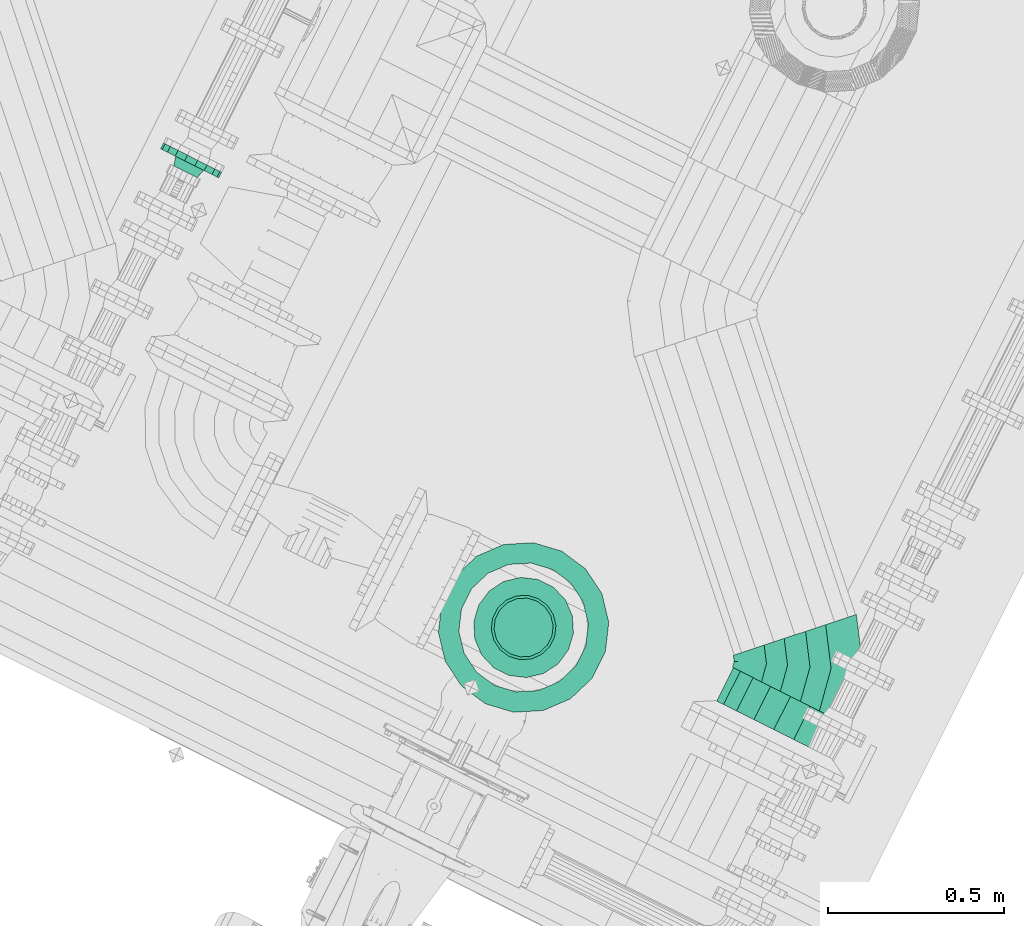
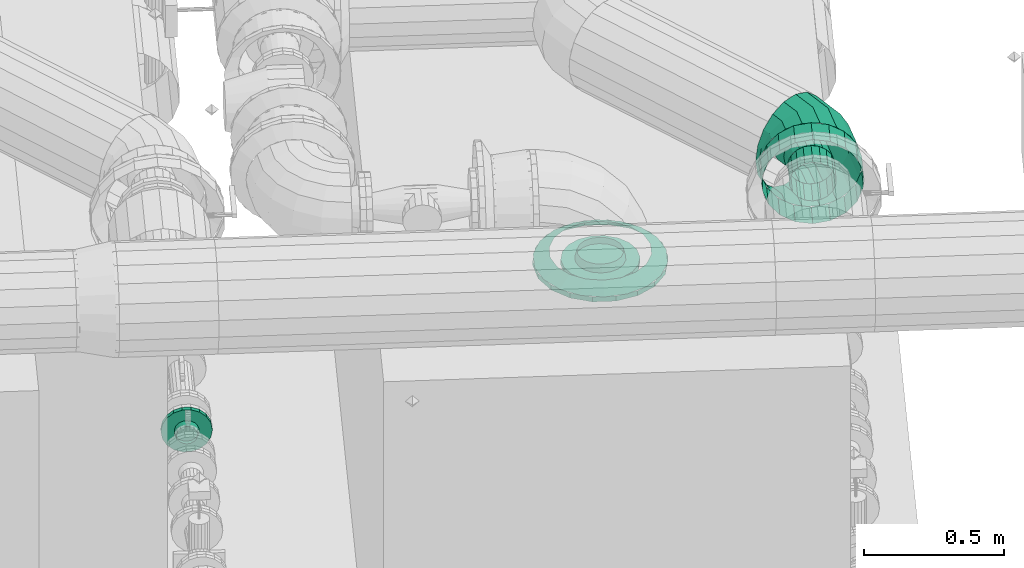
# One storey, part 76 of 206: 2 flow fittings, 2 flow segments.
"""IFC2X3 building model written with IfcOpenShell, lengths in metres."""

from ifc_helpers import new_model, si_unit, derived_unit, direction, frame, origin, place, context, subcontext, project, spatial, face_set, surface_model, source, transform, mapped, material, type_object, type_shapes, element, save


model = new_model("IFC2X3")

# Units and contexts
model_context = context("Model", 3, precision=5.2338327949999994e-05, world=origin(), true_north=direction((0.0, 1.0)))
body_context = subcontext(model_context, "Body", "Model", "MODEL_VIEW")
ifc_project = project(units=[si_unit("LENGTHUNIT", "METRE"), si_unit("AREAUNIT", "SQUARE_METRE"), si_unit("VOLUMEUNIT", "CUBIC_METRE"), si_unit("MASSUNIT", "GRAM", prefix="KILO"), si_unit("PLANEANGLEUNIT", "RADIAN"), derived_unit("THERMALTRANSMITTANCEUNIT", [(si_unit("MASSUNIT", "GRAM", prefix="KILO"), 1), (si_unit("THERMODYNAMICTEMPERATUREUNIT", "KELVIN"), -1), (si_unit("TIMEUNIT", "SECOND"), -3)])], contexts=[model_context])

# Site, building, storey
site_placement = place(None, frame((0.0, 0.0, 0.0), z_axis=(0.0, 0.0, 1.0), x_axis=(0.8939966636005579, -0.4480736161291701, 0.0)))
site = spatial("IfcSite", under=ifc_project, at=site_placement, Name="Default", CompositionType="ELEMENT")
building_placement = place(site_placement, origin())
building = spatial("IfcBuilding", under=site, at=building_placement, CompositionType="ELEMENT")
storey_placement = place(building_placement, origin())
storey = spatial("IfcBuildingStorey", under=building, at=storey_placement, Name="Erdgeschoss", CompositionType="ELEMENT", Elevation=0.0)

# Flow fitting
ifc_material_1 = material(Name="IfcSurfaceStyle #1741")
distribution_element_type_1 = type_object("IfcDistributionElementType", Name="Flansch 340673:Flansch 340673", material=ifc_material_1)
shared_shape_1 = source(origin(), body_context, "Body", "SurfaceModel", [
    surface_model("IfcFaceBasedSurfaceModel", [(26.38732323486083, 5.395961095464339, 2.07), (26.39591703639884, 5.347223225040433, 2.07), (26.39591703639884, 5.347223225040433, 2.0919999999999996), (26.38732323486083, 5.395961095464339, 2.0919999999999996), (26.42066190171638, 5.304363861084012, 2.07), (26.42066190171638, 5.304363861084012, 2.0919999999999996), (26.45857323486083, 5.2725524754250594, 2.07), (26.45857323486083, 5.2725524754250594, 2.0919999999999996), (26.505078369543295, 5.255625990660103, 2.07), (26.505078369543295, 5.255625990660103, 2.0919999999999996), (26.55456810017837, 5.255625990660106, 2.07), (26.55456810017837, 5.255625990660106, 2.0919999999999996), (26.60107323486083, 5.272552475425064, 2.07), (26.60107323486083, 5.272552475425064, 2.0919999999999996), (26.63898456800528, 5.304363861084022, 2.07), (26.63898456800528, 5.304363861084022, 2.0919999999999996), (26.663729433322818, 5.347223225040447, 2.07), (26.663729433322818, 5.347223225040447, 2.0919999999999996), (26.672323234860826, 5.395961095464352, 2.07), (26.672323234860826, 5.395961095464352, 2.0919999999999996), (26.663729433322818, 5.444698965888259, 2.07), (26.663729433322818, 5.444698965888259, 2.0919999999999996), (26.63898456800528, 5.487558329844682, 2.07), (26.63898456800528, 5.487558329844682, 2.0919999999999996), (26.60107323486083, 5.519369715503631, 2.07), (26.60107323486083, 5.519369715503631, 2.0919999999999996), (26.55456810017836, 5.536296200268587, 2.07), (26.55456810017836, 5.536296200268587, 2.0919999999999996), (26.505078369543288, 5.536296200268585, 2.07), (26.505078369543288, 5.536296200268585, 2.0919999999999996), (26.45857323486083, 5.519369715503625, 2.07), (26.45857323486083, 5.519369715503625, 2.0919999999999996), (26.42066190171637, 5.487558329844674, 2.07), (26.42066190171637, 5.487558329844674, 2.0919999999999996), (26.395917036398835, 5.444698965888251, 2.07), (26.395917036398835, 5.444698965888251, 2.0919999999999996), (26.529823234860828, 5.3959610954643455, 2.091999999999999), (26.529823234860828, 5.303961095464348, 2.091999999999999), (26.56128908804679, 5.309509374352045, 2.091999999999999), (26.558604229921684, 5.316885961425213, 2.1249999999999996), (26.529823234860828, 5.311811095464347, 2.125), (26.58895969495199, 5.325485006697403, 2.091999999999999), (26.58391381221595, 5.331498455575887, 2.1249999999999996), (26.609497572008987, 5.349961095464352, 2.091999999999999), (26.602699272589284, 5.353886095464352, 2.1249999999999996), (26.620425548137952, 5.37998546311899, 2.0919999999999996), (26.612694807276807, 5.381348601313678, 2.125), (26.620425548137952, 5.411936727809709, 2.0919999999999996), (26.612694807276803, 5.410573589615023, 2.125), (26.60949757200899, 5.44196109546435, 2.091999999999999), (26.602699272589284, 5.438036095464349, 2.1249999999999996), (26.588959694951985, 5.466437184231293, 2.0919999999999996), (26.58391381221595, 5.460423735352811, 2.125), (26.56128908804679, 5.4824128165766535, 2.0919999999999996), (26.558604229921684, 5.475036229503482, 2.125), (26.529823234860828, 5.487961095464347, 2.0919999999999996), (26.529823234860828, 5.480111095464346, 2.125), (26.498357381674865, 5.482412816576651, 2.0919999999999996), (26.50104223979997, 5.475036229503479, 2.125), (26.470686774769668, 5.466437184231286, 2.091999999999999), (26.47573265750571, 5.460423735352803, 2.1249999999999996), (26.450148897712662, 5.44196109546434, 2.091999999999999), (26.45694719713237, 5.438036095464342, 2.1249999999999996), (26.439220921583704, 5.4119367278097, 2.0919999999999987), (26.446951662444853, 5.410573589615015, 2.124999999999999), (26.439220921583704, 5.379985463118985, 2.091999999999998), (26.44695166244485, 5.38134860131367, 2.1249999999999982), (26.450148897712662, 5.349961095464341, 2.0919999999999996), (26.45694719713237, 5.353886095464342, 2.125), (26.470686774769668, 5.325485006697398, 2.0919999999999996), (26.47573265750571, 5.331498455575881, 2.125), (26.498357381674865, 5.309509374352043, 2.091999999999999), (26.501042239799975, 5.31688596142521, 2.1249999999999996), (26.287323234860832, 5.395961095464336, 2.07), (26.301947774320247, 5.313021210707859, 2.07), (26.301947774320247, 5.313021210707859, 2.0919999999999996), (26.287323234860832, 5.395961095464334, 2.0919999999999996), (26.34405745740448, 5.24008510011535, 2.07), (26.34405745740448, 5.24008510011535, 2.0919999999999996), (26.408573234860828, 5.185949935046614, 2.07), (26.408573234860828, 5.185949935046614, 2.0919999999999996), (26.487713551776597, 5.157145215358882, 2.07), (26.487713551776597, 5.157145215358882, 2.0919999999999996), (26.571932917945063, 5.157145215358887, 2.07), (26.571932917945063, 5.157145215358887, 2.0919999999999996), (26.651073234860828, 5.185949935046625, 2.07), (26.651073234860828, 5.185949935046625, 2.0919999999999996), (26.715589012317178, 5.240085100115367, 2.07), (26.715589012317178, 5.240085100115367, 2.0919999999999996), (26.75769869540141, 5.313021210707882, 2.07), (26.75769869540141, 5.313021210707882, 2.0919999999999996), (26.772323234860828, 5.395961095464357, 2.07), (26.772323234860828, 5.395961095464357, 2.0919999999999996), (26.75769869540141, 5.478900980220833, 2.07), (26.75769869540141, 5.478900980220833, 2.0919999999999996), (26.715589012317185, 5.551837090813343, 2.07), (26.715589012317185, 5.551837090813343, 2.0919999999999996), (26.651073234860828, 5.605972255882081, 2.07), (26.651073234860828, 5.605972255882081, 2.0919999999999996), (26.57193291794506, 5.63477697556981, 2.07), (26.57193291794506, 5.63477697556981, 2.0919999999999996), (26.487713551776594, 5.634776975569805, 2.07), (26.487713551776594, 5.634776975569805, 2.0919999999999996), (26.408573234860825, 5.605972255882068, 2.07), (26.408573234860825, 5.605972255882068, 2.0919999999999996), (26.344057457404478, 5.551837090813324, 2.07), (26.344057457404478, 5.551837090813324, 2.0919999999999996), (26.301947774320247, 5.47890098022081, 2.07), (26.301947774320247, 5.47890098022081, 2.0919999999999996), (26.529823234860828, 5.153461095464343, 2.092), (26.612763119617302, 5.168085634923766, 2.092), (26.592806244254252, 5.222916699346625, 2.1250000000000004), (26.529823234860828, 5.211811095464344, 2.1249999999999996), (26.68569923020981, 5.210195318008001, 2.0919999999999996), (26.648192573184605, 5.254894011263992, 2.125), (26.73983439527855, 5.274711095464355, 2.091999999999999), (26.68930181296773, 5.303886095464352, 2.1249999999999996), (26.768639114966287, 5.353851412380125, 2.091999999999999), (26.711175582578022, 5.363983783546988, 2.1249999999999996), (26.768639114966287, 5.438070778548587, 2.092000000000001), (26.711175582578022, 5.4279384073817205, 2.1250000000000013), (26.73983439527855, 5.517211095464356, 2.091999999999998), (26.68930181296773, 5.488036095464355, 2.1249999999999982), (26.68569923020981, 5.581726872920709, 2.092), (26.6481925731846, 5.537028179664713, 2.1250000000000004), (26.612763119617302, 5.6238365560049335, 2.0919999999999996), (26.592806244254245, 5.5690054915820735, 2.125), (26.529823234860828, 5.638461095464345, 2.0919999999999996), (26.529823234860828, 5.580111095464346, 2.125), (26.446883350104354, 5.623836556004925, 2.0919999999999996), (26.466840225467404, 5.569005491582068, 2.125), (26.373947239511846, 5.581726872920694, 2.0919999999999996), (26.411453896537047, 5.537028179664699, 2.125), (26.319812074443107, 5.517211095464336, 2.092), (26.37034465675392, 5.48803609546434, 2.1250000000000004), (26.29100735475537, 5.438070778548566, 2.0920000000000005), (26.34847088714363, 5.427938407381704, 2.125000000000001), (26.29100735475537, 5.353851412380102, 2.0919999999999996), (26.34847088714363, 5.36398378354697, 2.125), (26.319812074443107, 5.274711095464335, 2.091999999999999), (26.37034465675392, 5.303886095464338, 2.1249999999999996), (26.373947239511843, 5.210195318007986, 2.0920000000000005), (26.41145389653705, 5.254894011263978, 2.125000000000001), (26.446883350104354, 5.168085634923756, 2.092000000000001), (26.46684022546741, 5.222916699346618, 2.1250000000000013)], [face_set([[[0, 1, 2, 3]], [[1, 4, 5, 2]], [[4, 6, 7, 5]], [[6, 8, 9, 7]], [[8, 10, 11, 9]], [[10, 12, 13, 11]], [[12, 14, 15, 13]], [[14, 16, 17, 15]], [[16, 18, 19, 17]], [[18, 20, 21, 19]], [[20, 22, 23, 21]], [[22, 24, 25, 23]], [[24, 26, 27, 25]], [[26, 28, 29, 27]], [[28, 30, 31, 29]], [[30, 32, 33, 31]], [[32, 34, 35, 33]], [[34, 0, 3, 35]], [[36, 35, 3]], [[36, 33, 35]], [[36, 31, 33]], [[36, 29, 31]], [[36, 27, 29]], [[36, 25, 27]], [[36, 23, 25]], [[36, 21, 23]], [[36, 19, 21]], [[36, 17, 19]], [[36, 15, 17]], [[36, 13, 15]], [[36, 11, 13]], [[36, 9, 11]], [[36, 7, 9]], [[36, 5, 7]], [[36, 2, 5]], [[36, 3, 2]], [[37, 38, 39, 40]], [[38, 41, 42, 39]], [[41, 43, 44, 42]], [[43, 45, 46, 44]], [[45, 47, 48, 46]], [[47, 49, 50, 48]], [[49, 51, 52, 50]], [[51, 53, 54, 52]], [[53, 55, 56, 54]], [[55, 57, 58, 56]], [[57, 59, 60, 58]], [[59, 61, 62, 60]], [[61, 63, 64, 62]], [[63, 65, 66, 64]], [[65, 67, 68, 66]], [[67, 69, 70, 68]], [[69, 71, 72, 70]], [[71, 37, 40, 72]], [[73, 74, 75, 76]], [[74, 77, 78, 75]], [[77, 79, 80, 78]], [[79, 81, 82, 80]], [[81, 83, 84, 82]], [[83, 85, 86, 84]], [[85, 87, 88, 86]], [[87, 89, 90, 88]], [[89, 91, 92, 90]], [[91, 93, 94, 92]], [[93, 95, 96, 94]], [[95, 97, 98, 96]], [[97, 99, 100, 98]], [[99, 101, 102, 100]], [[101, 103, 104, 102]], [[103, 105, 106, 104]], [[105, 107, 108, 106]], [[107, 73, 76, 108]], [[109, 110, 111, 112]], [[110, 113, 114, 111]], [[113, 115, 116, 114]], [[115, 117, 118, 116]], [[117, 119, 120, 118]], [[119, 121, 122, 120]], [[121, 123, 124, 122]], [[123, 125, 126, 124]], [[125, 127, 128, 126]], [[127, 129, 130, 128]], [[129, 131, 132, 130]], [[131, 133, 134, 132]], [[133, 135, 136, 134]], [[135, 137, 138, 136]], [[137, 139, 140, 138]], [[139, 141, 142, 140]], [[141, 143, 144, 142]], [[143, 109, 112, 144]]])]),
])
type_shapes(distribution_element_type_1, [shared_shape_1])
flow_fitting_1_placement = place(storey_placement, origin())
element("IfcFlowFitting", 1, at=flow_fitting_1_placement, inside=storey, type_object=distribution_element_type_1, material=ifc_material_1, Name="Flansch", ObjectType="Flansch", context=body_context, shape_type="MappedRepresentation", body=[
    mapped(shared_shape_1, transform((0.0, 0.0, 0.0), scale=1.0)),
])

# Flow segments
ifc_material_2 = material(Name="IfcSurfaceStyle #9317")
distribution_element_type_2 = type_object("IfcDistributionElementType", Name="Rohrbogen 342231:Rohrbogen 342231", material=ifc_material_2)
shared_shape_2 = source(origin(), body_context, "Body", "SurfaceModel", [
    surface_model("IfcFaceBasedSurfaceModel", [(27.379550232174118, 5.5606742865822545, 2.353999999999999), (27.37447536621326, 5.560674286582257, 2.3252190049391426), (27.351024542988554, 5.678569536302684, 2.325219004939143), (27.355713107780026, 5.680511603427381, 2.354000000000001), (27.284242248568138, 5.778516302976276, 2.3252190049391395), (27.287830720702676, 5.782104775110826, 2.3539999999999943), (27.359862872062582, 5.560674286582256, 2.299909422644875), (27.337524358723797, 5.67297757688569, 2.299909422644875), (27.273909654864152, 5.768183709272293, 2.2999094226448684), (27.33747523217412, 5.5606742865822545, 2.281123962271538), (27.31684087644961, 5.6644101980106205, 2.281123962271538), (27.25807920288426, 5.752353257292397, 2.28112396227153), (27.3100127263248, 5.560674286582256, 2.271128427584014), (27.291468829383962, 5.653900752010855, 2.271128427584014), (27.23866027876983, 5.732934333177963, 2.271128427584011), (27.280787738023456, 5.560674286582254, 2.2711284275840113), (27.264468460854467, 5.642716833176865, 2.2711284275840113), (27.21799509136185, 5.7122691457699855, 2.271128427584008), (27.25332523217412, 5.560674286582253, 2.2811239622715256), (27.239096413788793, 5.632207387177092, 2.281123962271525), (27.198576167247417, 5.692850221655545, 2.281123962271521), (27.23093759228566, 5.560674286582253, 2.2999094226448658), (27.21841293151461, 5.623640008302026, 2.299909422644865), (27.18274571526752, 5.6770197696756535, 2.2999094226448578), (27.216325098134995, 5.560674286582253, 2.3252190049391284), (27.204912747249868, 5.61804804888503, 2.325219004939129), (27.172413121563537, 5.666687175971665, 2.3252190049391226), (27.211250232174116, 5.560674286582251, 2.3539999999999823), (27.200224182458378, 5.616105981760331, 2.3539999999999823), (27.168824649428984, 5.663098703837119, 2.3539999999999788), (27.21632509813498, 5.560674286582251, 2.3827809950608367), (27.204912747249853, 5.618048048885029, 2.3827809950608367), (27.17241312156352, 5.666687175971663, 2.3827809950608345), (27.230937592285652, 5.560674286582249, 2.408090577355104), (27.218412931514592, 5.623640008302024, 2.408090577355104), (27.182745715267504, 5.677019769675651, 2.408090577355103), (27.253325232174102, 5.560674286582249, 2.426876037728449), (27.239096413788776, 5.632207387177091, 2.426876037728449), (27.19857616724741, 5.692850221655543, 2.4268760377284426), (27.280787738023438, 5.560674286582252, 2.436871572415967), (27.26446846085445, 5.642716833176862, 2.436871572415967), (27.217995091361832, 5.712269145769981, 2.436871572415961), (27.31001272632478, 5.560674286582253, 2.4368715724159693), (27.291468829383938, 5.653900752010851, 2.4368715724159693), (27.238660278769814, 5.73293433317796, 2.4368715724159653), (27.33747523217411, 5.560674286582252, 2.4268760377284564), (27.316840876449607, 5.664410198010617, 2.426876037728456), (27.258079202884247, 5.752353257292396, 2.426876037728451), (27.359862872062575, 5.560674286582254, 2.408090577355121), (27.33752435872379, 5.672977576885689, 2.4080905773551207), (27.27390965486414, 5.768183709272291, 2.4080905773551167), (27.374475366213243, 5.560674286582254, 2.3827809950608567), (27.351024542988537, 5.678569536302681, 2.3827809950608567), (27.28424224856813, 5.778516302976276, 2.382780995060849), (27.479550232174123, 5.560674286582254, 2.3540000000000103), (27.46844462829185, 5.560674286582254, 2.2910169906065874), (27.43784082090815, 5.7145300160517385, 2.2910169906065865), (27.448101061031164, 5.718779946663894, 2.3540000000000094), (27.350688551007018, 5.844962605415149, 2.2910169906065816), (27.358541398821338, 5.852815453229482, 2.3540000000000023), (27.436467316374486, 5.5606742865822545, 2.235630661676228), (27.408297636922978, 5.702292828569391, 2.2356306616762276), (27.328077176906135, 5.8223512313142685, 2.235630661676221), (27.387475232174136, 5.560674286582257, 2.1945214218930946), (27.363034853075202, 5.683544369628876, 2.194521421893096), (27.293434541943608, 5.787708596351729, 2.1945214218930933), (27.327377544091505, 5.560674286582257, 2.1726476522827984), (27.307511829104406, 5.66054598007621, 2.1726476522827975), (27.25093905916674, 5.745213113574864, 2.1726476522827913), (27.26342292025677, 5.560674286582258, 2.17264765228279), (27.24842546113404, 5.636071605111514, 2.1726476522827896), (27.205716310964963, 5.699990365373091, 2.172647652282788), (27.203325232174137, 5.560674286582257, 2.1945214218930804), (27.19290243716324, 5.613073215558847, 2.1945214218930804), (27.1632208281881, 5.657494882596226, 2.1945214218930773), (27.15433314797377, 5.560674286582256, 2.2356306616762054), (27.147639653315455, 5.594324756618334, 2.235630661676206), (27.128578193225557, 5.622852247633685, 2.2356306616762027), (27.122355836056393, 5.560674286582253, 2.291016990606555), (27.11809646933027, 5.582087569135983, 2.291016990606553), (27.105966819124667, 5.600240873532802, 2.2910169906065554), (27.11125023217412, 5.560674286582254, 2.3539999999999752), (27.10783622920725, 5.577837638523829, 2.353999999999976), (27.09811397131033, 5.59238802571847, 2.3539999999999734), (27.122355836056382, 5.560674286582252, 2.416983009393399), (27.118096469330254, 5.582087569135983, 2.416983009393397), (27.105966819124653, 5.6002408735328, 2.4169830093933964), (27.154333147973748, 5.560674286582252, 2.4723693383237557), (27.14763965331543, 5.594324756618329, 2.472369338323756), (27.128578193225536, 5.6228522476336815, 2.472369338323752), (27.2033252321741, 5.560674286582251, 2.5134785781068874), (27.19290243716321, 5.613073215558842, 2.513478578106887), (27.16322082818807, 5.65749488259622, 2.5134785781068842), (27.263422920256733, 5.560674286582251, 2.5353523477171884), (27.248425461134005, 5.636071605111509, 2.5353523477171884), (27.20571631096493, 5.699990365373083, 2.5353523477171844), (27.327377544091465, 5.560674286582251, 2.5353523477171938), (27.307511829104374, 5.660545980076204, 2.535352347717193), (27.250939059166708, 5.745213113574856, 2.5353523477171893), (27.387475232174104, 5.560674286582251, 2.5134785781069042), (27.363034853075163, 5.683544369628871, 2.5134785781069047), (27.293434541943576, 5.787708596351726, 2.513478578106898), (27.436467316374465, 5.560674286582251, 2.47236933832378), (27.408297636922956, 5.702292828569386, 2.47236933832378), (27.328077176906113, 5.822351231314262, 2.4723693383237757), (27.468444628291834, 5.560674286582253, 2.4169830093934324), (27.437840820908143, 5.714530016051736, 2.416983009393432), (27.350688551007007, 5.844962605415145, 2.4169830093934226)], [face_set([[[0, 1, 2, 3]], [[3, 2, 4, 5]], [[1, 6, 7, 2]], [[2, 7, 8, 4]], [[6, 9, 10, 7]], [[7, 10, 11, 8]], [[9, 12, 13, 10]], [[10, 13, 14, 11]], [[12, 15, 16, 13]], [[13, 16, 17, 14]], [[15, 18, 19, 16]], [[16, 19, 20, 17]], [[18, 21, 22, 19]], [[19, 22, 23, 20]], [[21, 24, 25, 22]], [[22, 25, 26, 23]], [[24, 27, 28, 25]], [[25, 28, 29, 26]], [[27, 30, 31, 28]], [[28, 31, 32, 29]], [[30, 33, 34, 31]], [[31, 34, 35, 32]], [[33, 36, 37, 34]], [[34, 37, 38, 35]], [[36, 39, 40, 37]], [[37, 40, 41, 38]], [[39, 42, 43, 40]], [[40, 43, 44, 41]], [[42, 45, 46, 43]], [[43, 46, 47, 44]], [[45, 48, 49, 46]], [[46, 49, 50, 47]], [[48, 51, 52, 49]], [[49, 52, 53, 50]], [[51, 0, 3, 52]], [[52, 3, 5, 53]], [[54, 55, 56, 57]], [[57, 56, 58, 59]], [[55, 60, 61, 56]], [[56, 61, 62, 58]], [[60, 63, 64, 61]], [[61, 64, 65, 62]], [[63, 66, 67, 64]], [[64, 67, 68, 65]], [[66, 69, 70, 67]], [[67, 70, 71, 68]], [[69, 72, 73, 70]], [[70, 73, 74, 71]], [[72, 75, 76, 73]], [[73, 76, 77, 74]], [[75, 78, 79, 76]], [[76, 79, 80, 77]], [[78, 81, 82, 79]], [[79, 82, 83, 80]], [[81, 84, 85, 82]], [[82, 85, 86, 83]], [[84, 87, 88, 85]], [[85, 88, 89, 86]], [[87, 90, 91, 88]], [[88, 91, 92, 89]], [[90, 93, 94, 91]], [[91, 94, 95, 92]], [[93, 96, 97, 94]], [[94, 97, 98, 95]], [[96, 99, 100, 97]], [[97, 100, 101, 98]], [[99, 102, 103, 100]], [[100, 103, 104, 101]], [[102, 105, 106, 103]], [[103, 106, 107, 104]], [[105, 54, 57, 106]], [[106, 57, 59, 107]]])]),
])
type_shapes(distribution_element_type_2, [shared_shape_2])
flow_segment_1_placement = place(storey_placement, origin())
element("IfcFlowSegment", 2, at=flow_segment_1_placement, inside=storey, type_object=distribution_element_type_2, material=ifc_material_2, Name="Rohrbogen", ObjectType="Rohrbogen", context=body_context, shape_type="MappedRepresentation", body=[
    mapped(shared_shape_2, transform((0.0, 0.0, 0.0), scale=1.0)),
])
distribution_element_type_3 = type_object("IfcDistributionElementType", Name="Stahlrohr nach DIN 2448 343408:Stahlrohr nach DIN 2448 343408", material=ifc_material_2)
shared_shape_3 = source(origin(), body_context, "Body", "SurfaceModel", [
    surface_model("IfcFaceBasedSurfaceModel", [(27.29540023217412, 5.560674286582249, 2.4381499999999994), (27.266619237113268, 5.560674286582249, 2.433075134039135), (27.266619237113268, 5.4549121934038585, 2.433075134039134), (27.295400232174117, 5.4549121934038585, 2.438149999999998), (27.241309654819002, 5.560674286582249, 2.4184626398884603), (27.24130965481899, 5.4549121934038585, 2.41846263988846), (27.222524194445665, 5.560674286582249, 2.396074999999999), (27.22252419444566, 5.4549121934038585, 2.3960749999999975), (27.212528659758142, 5.560674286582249, 2.3686124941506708), (27.212528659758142, 5.4549121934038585, 2.368612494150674), (27.212528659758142, 5.560674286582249, 2.3393875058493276), (27.212528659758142, 5.4549121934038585, 2.3393875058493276), (27.22252419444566, 5.560674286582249, 2.3119250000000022), (27.22252419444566, 5.4549121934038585, 2.3119250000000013), (27.241309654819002, 5.560674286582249, 2.289537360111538), (27.24130965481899, 5.4549121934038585, 2.289537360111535), (27.266619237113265, 5.560674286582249, 2.2749248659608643), (27.266619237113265, 5.4549121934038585, 2.274924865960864), (27.29540023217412, 5.560674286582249, 2.2698500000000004), (27.295400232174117, 5.454912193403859, 2.2698500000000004), (27.32418122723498, 5.560674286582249, 2.274924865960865), (27.324181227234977, 5.454912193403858, 2.2749248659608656), (27.349490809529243, 5.560674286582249, 2.28953736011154), (27.34949080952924, 5.4549121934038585, 2.289537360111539), (27.368276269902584, 5.560674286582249, 2.3119250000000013), (27.368276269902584, 5.4549121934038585, 2.3119250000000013), (27.378271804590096, 5.560674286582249, 2.3393875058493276), (27.378271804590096, 5.4549121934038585, 2.339387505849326), (27.378271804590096, 5.560674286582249, 2.3686124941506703), (27.378271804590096, 5.4549121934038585, 2.368612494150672), (27.368276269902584, 5.560674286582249, 2.396075), (27.36827626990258, 5.4549121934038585, 2.3960749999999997), (27.349490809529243, 5.560674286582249, 2.418462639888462), (27.349490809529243, 5.4549121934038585, 2.4184626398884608), (27.324181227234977, 5.560674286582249, 2.4330751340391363), (27.32418122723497, 5.4549121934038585, 2.433075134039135), (27.29540023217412, 5.560674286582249, 2.5381499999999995), (27.232417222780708, 5.560674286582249, 2.5270443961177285), (27.232417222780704, 5.4549121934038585, 2.527044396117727), (27.295400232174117, 5.4549121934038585, 2.538149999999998), (27.17703089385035, 5.560674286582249, 2.4950670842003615), (27.17703089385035, 5.4549121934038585, 2.495067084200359), (27.135921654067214, 5.560674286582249, 2.446074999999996), (27.13592165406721, 5.4549121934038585, 2.446074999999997), (27.114047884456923, 5.560674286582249, 2.385977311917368), (27.114047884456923, 5.4549121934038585, 2.3859773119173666), (27.114047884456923, 5.560674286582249, 2.3220226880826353), (27.114047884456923, 5.4549121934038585, 2.3220226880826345), (27.135921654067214, 5.560674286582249, 2.261924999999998), (27.13592165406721, 5.4549121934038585, 2.261924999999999), (27.177030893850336, 5.560674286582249, 2.2129329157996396), (27.177030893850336, 5.4549121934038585, 2.2129329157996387), (27.2324172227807, 5.560674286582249, 2.1809556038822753), (27.2324172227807, 5.4549121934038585, 2.1809556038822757), (27.295400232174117, 5.560674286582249, 2.1698499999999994), (27.295400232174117, 5.4549121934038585, 2.1698499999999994), (27.35838324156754, 5.560674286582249, 2.1809556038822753), (27.35838324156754, 5.4549121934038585, 2.180955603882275), (27.413769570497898, 5.560674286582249, 2.2129329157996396), (27.413769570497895, 5.4549121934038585, 2.2129329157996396), (27.45487881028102, 5.560674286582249, 2.2619249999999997), (27.45487881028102, 5.4549121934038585, 2.2619250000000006), (27.47675257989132, 5.560674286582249, 2.322022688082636), (27.47675257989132, 5.4549121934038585, 2.3220226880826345), (27.476752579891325, 5.560674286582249, 2.3859773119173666), (27.47675257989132, 5.4549121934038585, 2.3859773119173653), (27.454878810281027, 5.560674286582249, 2.446074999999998), (27.454878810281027, 5.4549121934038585, 2.4460749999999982), (27.413769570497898, 5.560674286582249, 2.4950670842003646), (27.413769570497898, 5.4549121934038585, 2.4950670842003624), (27.358383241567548, 5.560674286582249, 2.5270443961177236), (27.358383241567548, 5.4549121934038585, 2.5270443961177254)], [face_set([[[0, 1, 2, 3]], [[1, 4, 5, 2]], [[4, 6, 7, 5]], [[6, 8, 9, 7]], [[8, 10, 11, 9]], [[10, 12, 13, 11]], [[12, 14, 15, 13]], [[14, 16, 17, 15]], [[16, 18, 19, 17]], [[18, 20, 21, 19]], [[20, 22, 23, 21]], [[22, 24, 25, 23]], [[24, 26, 27, 25]], [[26, 28, 29, 27]], [[28, 30, 31, 29]], [[30, 32, 33, 31]], [[32, 34, 35, 33]], [[34, 0, 3, 35]], [[36, 37, 38, 39]], [[37, 40, 41, 38]], [[40, 42, 43, 41]], [[42, 44, 45, 43]], [[44, 46, 47, 45]], [[46, 48, 49, 47]], [[48, 50, 51, 49]], [[50, 52, 53, 51]], [[52, 54, 55, 53]], [[54, 56, 57, 55]], [[56, 58, 59, 57]], [[58, 60, 61, 59]], [[60, 62, 63, 61]], [[62, 64, 65, 63]], [[64, 66, 67, 65]], [[66, 68, 69, 67]], [[68, 70, 71, 69]], [[70, 36, 39, 71]]])]),
])
type_shapes(distribution_element_type_3, [shared_shape_3])
flow_segment_2_placement = place(storey_placement, origin())
element("IfcFlowSegment", 3, at=flow_segment_2_placement, inside=storey, type_object=distribution_element_type_3, material=ifc_material_2, Name="Stahlrohr nach DIN 2448", ObjectType="Stahlrohr nach DIN 2448", context=body_context, shape_type="MappedRepresentation", body=[
    mapped(shared_shape_3, transform((0.0, 0.0, 0.0), scale=1.0)),
])

# Flow fitting
ifc_material_3 = material(Name="IfcSurfaceStyle #352577")
distribution_element_type_4 = type_object("IfcDistributionElementType", Name="Flansch 604180:Flansch 604180", material=ifc_material_3)
shared_shape_4 = source(origin(), body_context, "Body", "SurfaceModel", [
    surface_model("IfcFaceBasedSurfaceModel", [(24.998140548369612, 6.167958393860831, 0.8699999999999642), (25.00371898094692, 6.167958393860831, 0.8383631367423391), (25.00371898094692, 6.14995839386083, 0.8383631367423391), (24.998140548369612, 6.14995839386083, 0.8699999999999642), (25.01978143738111, 6.167958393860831, 0.810542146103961), (25.01978143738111, 6.14995839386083, 0.810542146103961), (25.044390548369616, 6.167958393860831, 0.7898926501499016), (25.044390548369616, 6.14995839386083, 0.7898926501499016), (25.07457809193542, 6.167958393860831, 0.7789052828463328), (25.07457809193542, 6.14995839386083, 0.7789052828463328), (25.10670300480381, 6.167958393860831, 0.7789052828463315), (25.10670300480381, 6.14995839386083, 0.7789052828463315), (25.136890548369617, 6.167958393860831, 0.7898926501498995), (25.136890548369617, 6.14995839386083, 0.7898926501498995), (25.161499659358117, 6.167958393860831, 0.8105421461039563), (25.161499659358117, 6.14995839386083, 0.8105421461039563), (25.17756211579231, 6.167958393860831, 0.8383631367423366), (25.17756211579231, 6.14995839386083, 0.8383631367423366), (25.183140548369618, 6.167958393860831, 0.8699999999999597), (25.183140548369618, 6.14995839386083, 0.8699999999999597), (25.17756211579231, 6.167958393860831, 0.9016368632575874), (25.17756211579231, 6.14995839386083, 0.9016368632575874), (25.161499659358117, 6.167958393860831, 0.9294578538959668), (25.161499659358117, 6.14995839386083, 0.9294578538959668), (25.13689054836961, 6.167958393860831, 0.9501073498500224), (25.13689054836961, 6.14995839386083, 0.9501073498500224), (25.10670300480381, 6.167958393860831, 0.9610947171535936), (25.10670300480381, 6.14995839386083, 0.9610947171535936), (25.07457809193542, 6.167958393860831, 0.9610947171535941), (25.07457809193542, 6.14995839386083, 0.9610947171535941), (25.044390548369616, 6.167958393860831, 0.9501073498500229), (25.044390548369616, 6.14995839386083, 0.9501073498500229), (25.01978143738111, 6.167958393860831, 0.9294578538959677), (25.01978143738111, 6.14995839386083, 0.9294578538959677), (25.003718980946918, 6.167958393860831, 0.9016368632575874), (25.003718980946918, 6.14995839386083, 0.9016368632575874), (25.090640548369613, 6.149958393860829, 0.8699999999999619), (25.090640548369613, 6.14995839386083, 0.8249999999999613), (25.106031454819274, 6.14995839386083, 0.8277138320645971), (25.10365441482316, 6.12295839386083, 0.8342446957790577), (25.090640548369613, 6.12295839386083, 0.8319499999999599), (25.119565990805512, 6.14995839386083, 0.8355280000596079), (25.11509861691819, 6.12295839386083, 0.8408520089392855), (25.129611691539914, 6.14995839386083, 0.8474999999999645), (25.123592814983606, 6.12295839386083, 0.8509749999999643), (25.13495689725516, 6.14995839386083, 0.8621858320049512), (25.128112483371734, 6.12295839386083, 0.8633926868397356), (25.13495689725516, 6.14995839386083, 0.8778141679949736), (25.12811248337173, 6.12295839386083, 0.8766073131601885), (25.129611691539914, 6.149958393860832, 0.8924999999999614), (25.123592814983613, 6.122958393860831, 0.889024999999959), (25.119565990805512, 6.14995839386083, 0.9044719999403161), (25.115098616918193, 6.12295839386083, 0.8991479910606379), (25.10603145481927, 6.14995839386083, 0.9122861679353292), (25.10365441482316, 6.12295839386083, 0.9057553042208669), (25.090640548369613, 6.14995839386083, 0.9149999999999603), (25.090640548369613, 6.12295839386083, 0.9080499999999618), (25.075249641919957, 6.14995839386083, 0.9122861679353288), (25.07762668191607, 6.12295839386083, 0.9057553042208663), (25.061715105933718, 6.149958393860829, 0.9044719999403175), (25.06618247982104, 6.122958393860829, 0.8991479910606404), (25.051669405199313, 6.14995839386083, 0.8924999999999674), (25.05768828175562, 6.12295839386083, 0.8890249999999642), (25.046324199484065, 6.14995839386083, 0.8778141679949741), (25.053168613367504, 6.12295839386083, 0.8766073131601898), (25.046324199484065, 6.14995839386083, 0.8621858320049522), (25.0531686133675, 6.12295839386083, 0.8633926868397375), (25.051669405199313, 6.14995839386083, 0.8474999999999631), (25.05768828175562, 6.12295839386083, 0.850974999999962), (25.061715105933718, 6.14995839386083, 0.8355280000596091), (25.06618247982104, 6.12295839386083, 0.8408520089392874), (25.075249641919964, 6.14995839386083, 0.8277138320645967), (25.077626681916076, 6.12295839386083, 0.8342446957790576)], [face_set([[[0, 1, 2, 3]], [[1, 4, 5, 2]], [[4, 6, 7, 5]], [[6, 8, 9, 7]], [[8, 10, 11, 9]], [[10, 12, 13, 11]], [[12, 14, 15, 13]], [[14, 16, 17, 15]], [[16, 18, 19, 17]], [[18, 20, 21, 19]], [[20, 22, 23, 21]], [[22, 24, 25, 23]], [[24, 26, 27, 25]], [[26, 28, 29, 27]], [[28, 30, 31, 29]], [[30, 32, 33, 31]], [[32, 34, 35, 33]], [[34, 0, 3, 35]], [[36, 35, 3]], [[36, 33, 35]], [[36, 31, 33]], [[36, 29, 31]], [[36, 27, 29]], [[36, 25, 27]], [[36, 23, 25]], [[36, 21, 23]], [[36, 19, 21]], [[36, 17, 19]], [[36, 15, 17]], [[36, 13, 15]], [[36, 11, 13]], [[36, 9, 11]], [[36, 7, 9]], [[36, 5, 7]], [[36, 2, 5]], [[36, 3, 2]], [[37, 38, 39, 40]], [[38, 41, 42, 39]], [[41, 43, 44, 42]], [[43, 45, 46, 44]], [[45, 47, 48, 46]], [[47, 49, 50, 48]], [[49, 51, 52, 50]], [[51, 53, 54, 52]], [[53, 55, 56, 54]], [[55, 57, 58, 56]], [[57, 59, 60, 58]], [[59, 61, 62, 60]], [[61, 63, 64, 62]], [[63, 65, 66, 64]], [[65, 67, 68, 66]], [[67, 69, 70, 68]], [[69, 71, 72, 70]], [[71, 37, 40, 72]]])]),
])
type_shapes(distribution_element_type_4, [shared_shape_4])
flow_fitting_2_placement = place(storey_placement, origin())
element("IfcFlowFitting", 4, at=flow_fitting_2_placement, inside=storey, type_object=distribution_element_type_4, material=ifc_material_3, Name="Flansch", ObjectType="Flansch", context=body_context, shape_type="MappedRepresentation", body=[
    mapped(shared_shape_4, transform((0.0, 0.0, 0.0), scale=1.0)),
])

save(model, "model.ifc")
